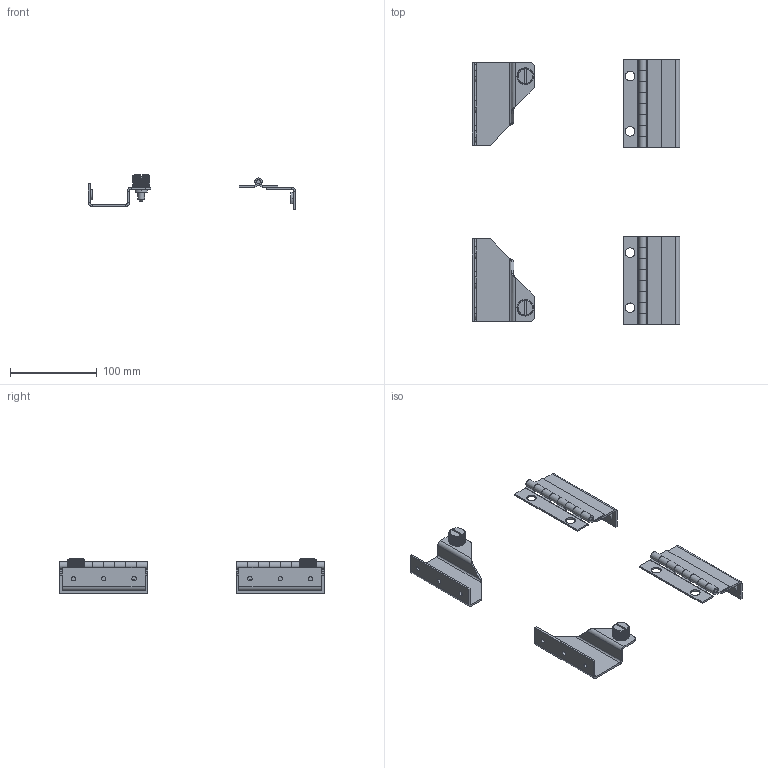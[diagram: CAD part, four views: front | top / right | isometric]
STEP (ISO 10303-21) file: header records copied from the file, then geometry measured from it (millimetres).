
FILE_DESCRIPTION (( 'STEP AP203' ), '1' );
FILE_NAME ('anadfk.stp', '2019-01-02T21:05:21', ( '' ), ( '' ), 'SwSTEP 2.0', 'SolidWorks 2016', '' );
FILE_SCHEMA (( 'CONFIG_CONTROL_DESIGN' ));
Length unit declared in the file: inch
Products named in the file (11): 22296001; 22296002; 54150002; 89083382_811SZPHN; anadfk; 23124001_Flexible; 89083381; 23123001; 99401586; 22297001
Assembly tree (14 placements, depth 4):
  anadfk
    22297001  x2
      23124001_Flexible
        89083382_811SZPHN
        89083382_811SZPHN
        89083381
      23123001
      99401586
    22296001
    22296002
    54150002  x2
Bounding box: 238.99 x 304.8 x 39.62 mm (x, y, z)
Volume: 110173.7 mm3; surface area: 98721.8 mm2
Topology: 18 solids, 18 shells, 752 faces, 1930 edges, 1242 vertices
Faces by surface type: plane 450, cylinder 268, cone 18, torus 12, bspline 4
Entity records: 13683 total; most frequent: CARTESIAN_POINT 2785, ORIENTED_EDGE 2046, DIRECTION 1942, EDGE_CURVE 1023, AXIS2_PLACEMENT_3D 698, VERTEX_POINT 653, VECTOR 546, LINE 546
